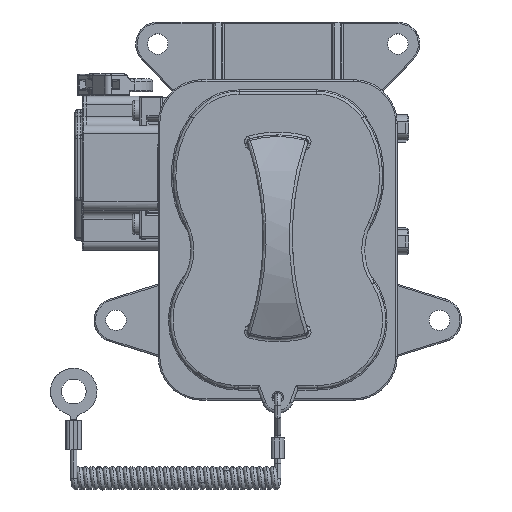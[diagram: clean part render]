
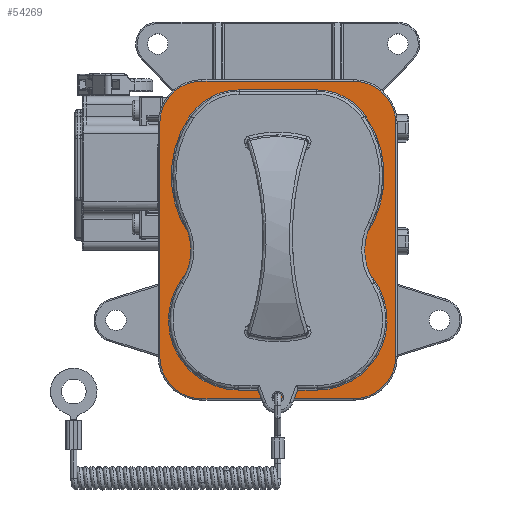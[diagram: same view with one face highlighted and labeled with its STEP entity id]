
A CAD part, top view. The second image highlights one B-rep face of the part: STEP entity #54269.
In plain terms, the highlighted planar face has unit normal (0, 0, 1).
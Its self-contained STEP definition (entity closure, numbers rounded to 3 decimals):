
#4748=CARTESIAN_POINT('',(-26.,18.,64.5));
#4749=DIRECTION('',(0.,0.,-1.));
#4750=DIRECTION('',(-1.,0.,0.));
#4751=AXIS2_PLACEMENT_3D('',#4748,#4749,#4750);
#4753=CARTESIAN_POINT('',(26.,18.,64.5));
#4754=DIRECTION('',(0.,0.,-1.));
#4755=DIRECTION('',(0.,1.,0.));
#4756=AXIS2_PLACEMENT_3D('',#4753,#4754,#4755);
#4758=CARTESIAN_POINT('',(26.,-62.,64.5));
#4759=DIRECTION('',(0.,0.,-1.));
#4760=DIRECTION('',(1.,0.,0.));
#4761=AXIS2_PLACEMENT_3D('',#4758,#4759,#4760);
#4763=CARTESIAN_POINT('',(-26.,-62.,64.5));
#4764=DIRECTION('',(0.,0.,-1.));
#4765=DIRECTION('',(0.,-1.,0.));
#4766=AXIS2_PLACEMENT_3D('',#4763,#4764,#4765);
#4768=CARTESIAN_POINT('',(-27.898,-27.253,64.5));
#4769=DIRECTION('',(0.,0.,-1.));
#4770=DIRECTION('',(0.715,0.699,0.));
#4771=AXIS2_PLACEMENT_3D('',#4768,#4769,#4770);
#4773=CARTESIAN_POINT('',(-13.5,-49.5,64.5));
#4774=DIRECTION('',(0.,0.,1.));
#4775=DIRECTION('',(-0.543,0.84,0.));
#4776=AXIS2_PLACEMENT_3D('',#4773,#4774,#4775);
#4778=CARTESIAN_POINT('',(13.5,-49.5,64.5));
#4779=DIRECTION('',(0.,0.,1.));
#4780=DIRECTION('',(0.,-1.,0.));
#4781=AXIS2_PLACEMENT_3D('',#4778,#4779,#4780);
#4783=CARTESIAN_POINT('',(27.898,-27.253,64.5));
#4784=DIRECTION('',(0.,0.,-1.));
#4785=DIRECTION('',(-0.543,-0.84,0.));
#4786=AXIS2_PLACEMENT_3D('',#4783,#4784,#4785);
#4788=CARTESIAN_POINT('',(0.,0.,64.5));
#4789=DIRECTION('',(0.,0.,1.));
#4790=DIRECTION('',(0.715,-0.699,0.));
#4791=AXIS2_PLACEMENT_3D('',#4788,#4789,#4790);
#4793=CARTESIAN_POINT('',(13.255,9.05,64.5));
#4794=DIRECTION('',(0.,0.,1.));
#4795=DIRECTION('',(0.826,0.564,0.));
#4796=AXIS2_PLACEMENT_3D('',#4793,#4794,#4795);
#4798=CARTESIAN_POINT('',(-13.255,9.05,64.5));
#4799=DIRECTION('',(0.,0.,1.));
#4800=DIRECTION('',(0.,1.,0.));
#4801=AXIS2_PLACEMENT_3D('',#4798,#4799,#4800);
#4803=CARTESIAN_POINT('',(0.,0.,64.5));
#4804=DIRECTION('',(0.,0.,1.));
#4805=DIRECTION('',(-0.826,0.564,0.));
#4806=AXIS2_PLACEMENT_3D('',#4803,#4804,#4805);
#4808=DIRECTION('',(0.,-1.,0.));
#4809=VECTOR('',#4808,80.);
#4810=CARTESIAN_POINT('',(-40.5,18.,64.5));
#4811=LINE('',#4810,#4809);
#4831=DIRECTION('',(1.,0.,0.));
#4832=VECTOR('',#4831,52.);
#4833=CARTESIAN_POINT('',(-26.,-76.5,64.5));
#4834=LINE('',#4833,#4832);
#4854=DIRECTION('',(0.,1.,0.));
#4855=VECTOR('',#4854,80.);
#4856=CARTESIAN_POINT('',(40.5,-62.,64.5));
#4857=LINE('',#4856,#4855);
#4877=DIRECTION('',(-1.,0.,0.));
#4878=VECTOR('',#4877,52.);
#4879=CARTESIAN_POINT('',(26.,32.5,64.5));
#4880=LINE('',#4879,#4878);
#5014=DIRECTION('',(1.,0.,0.));
#5015=VECTOR('',#5014,26.51);
#5016=CARTESIAN_POINT('',(-13.255,29.5,64.5));
#5017=LINE('',#5016,#5015);
#13227=DIRECTION('',(-1.,0.,0.));
#13228=VECTOR('',#13227,27.);
#13229=CARTESIAN_POINT('',(13.5,-73.5,64.5));
#13230=LINE('',#13229,#13228);
#40253=CARTESIAN_POINT('',(-40.5,18.,64.5));
#40254=CARTESIAN_POINT('',(-26.,32.5,64.5));
#40255=VERTEX_POINT('',#40253);
#40256=VERTEX_POINT('',#40254);
#40257=CARTESIAN_POINT('',(-40.5,-62.,64.5));
#40258=VERTEX_POINT('',#40257);
#40259=CARTESIAN_POINT('',(26.,32.5,64.5));
#40260=VERTEX_POINT('',#40259);
#40261=CARTESIAN_POINT('',(40.5,18.,64.5));
#40262=VERTEX_POINT('',#40261);
#40263=CARTESIAN_POINT('',(40.5,-62.,64.5));
#40264=VERTEX_POINT('',#40263);
#40265=CARTESIAN_POINT('',(26.,-76.5,64.5));
#40266=VERTEX_POINT('',#40265);
#40267=CARTESIAN_POINT('',(-26.,-76.5,64.5));
#40268=VERTEX_POINT('',#40267);
#40269=CARTESIAN_POINT('',(-26.11,-25.506,64.5));
#40270=CARTESIAN_POINT('',(-26.54,-29.351,64.5));
#40271=VERTEX_POINT('',#40269);
#40272=VERTEX_POINT('',#40270);
#40273=CARTESIAN_POINT('',(-13.5,-73.5,64.5));
#40274=VERTEX_POINT('',#40273);
#40275=CARTESIAN_POINT('',(13.5,-73.5,64.5));
#40276=VERTEX_POINT('',#40275);
#40277=CARTESIAN_POINT('',(26.54,-29.351,64.5));
#40278=VERTEX_POINT('',#40277);
#40279=CARTESIAN_POINT('',(26.11,-25.506,64.5));
#40280=VERTEX_POINT('',#40279);
#40281=CARTESIAN_POINT('',(30.144,20.581,64.5));
#40282=VERTEX_POINT('',#40281);
#40283=CARTESIAN_POINT('',(13.255,29.5,64.5));
#40284=VERTEX_POINT('',#40283);
#40285=CARTESIAN_POINT('',(-13.255,29.5,64.5));
#40286=VERTEX_POINT('',#40285);
#40287=CARTESIAN_POINT('',(-30.144,20.581,64.5));
#40288=VERTEX_POINT('',#40287);
#54225=CARTESIAN_POINT('',(0.,0.,64.5));
#54226=DIRECTION('',(0.,0.,1.));
#54227=DIRECTION('',(1.,0.,0.));
#54228=AXIS2_PLACEMENT_3D('',#54225,#54226,#54227);
#54229=PLANE('',#54228);
#54231=ORIENTED_EDGE('',*,*,#54230,.F.);
#54232=ORIENTED_EDGE('',*,*,#54215,.T.);
#54234=ORIENTED_EDGE('',*,*,#54233,.F.);
#54236=ORIENTED_EDGE('',*,*,#54235,.T.);
#54238=ORIENTED_EDGE('',*,*,#54237,.F.);
#54240=ORIENTED_EDGE('',*,*,#54239,.T.);
#54242=ORIENTED_EDGE('',*,*,#54241,.F.);
#54244=ORIENTED_EDGE('',*,*,#54243,.T.);
#54245=EDGE_LOOP('',(#54231,#54232,#54234,#54236,#54238,#54240,#54242,#54244));
#54246=FACE_OUTER_BOUND('',#54245,.F.);
#54248=ORIENTED_EDGE('',*,*,#54247,.T.);
#54250=ORIENTED_EDGE('',*,*,#54249,.T.);
#54252=ORIENTED_EDGE('',*,*,#54251,.F.);
#54254=ORIENTED_EDGE('',*,*,#54253,.T.);
#54256=ORIENTED_EDGE('',*,*,#54255,.T.);
#54258=ORIENTED_EDGE('',*,*,#54257,.T.);
#54260=ORIENTED_EDGE('',*,*,#54259,.T.);
#54262=ORIENTED_EDGE('',*,*,#54261,.F.);
#54264=ORIENTED_EDGE('',*,*,#54263,.T.);
#54266=ORIENTED_EDGE('',*,*,#54265,.T.);
#54267=EDGE_LOOP('',(#54248,#54250,#54252,#54254,#54256,#54258,#54260,#54262,
#54264,#54266));
#54268=FACE_BOUND('',#54267,.F.);
#54269=ADVANCED_FACE('',(#54246,#54268),#54229,.T.);
#4752=CIRCLE('',#4751,14.5);
#4757=CIRCLE('',#4756,14.5);
#4762=CIRCLE('',#4761,14.5);
#4767=CIRCLE('',#4766,14.5);
#4772=CIRCLE('',#4771,2.5);
#4777=CIRCLE('',#4776,24.);
#4782=CIRCLE('',#4781,24.);
#4787=CIRCLE('',#4786,2.5);
#4792=CIRCLE('',#4791,36.5);
#4797=CIRCLE('',#4796,20.45);
#4802=CIRCLE('',#4801,20.45);
#4807=CIRCLE('',#4806,36.5);
#54215=EDGE_CURVE('',#40255,#40256,#4752,.T.);
#54230=EDGE_CURVE('',#40255,#40258,#4811,.T.);
#54233=EDGE_CURVE('',#40260,#40256,#4880,.T.);
#54235=EDGE_CURVE('',#40260,#40262,#4757,.T.);
#54237=EDGE_CURVE('',#40264,#40262,#4857,.T.);
#54239=EDGE_CURVE('',#40264,#40266,#4762,.T.);
#54241=EDGE_CURVE('',#40268,#40266,#4834,.T.);
#54243=EDGE_CURVE('',#40268,#40258,#4767,.T.);
#54247=EDGE_CURVE('',#40271,#40272,#4772,.T.);
#54249=EDGE_CURVE('',#40272,#40274,#4777,.T.);
#54251=EDGE_CURVE('',#40276,#40274,#13230,.T.);
#54253=EDGE_CURVE('',#40276,#40278,#4782,.T.);
#54255=EDGE_CURVE('',#40278,#40280,#4787,.T.);
#54257=EDGE_CURVE('',#40280,#40282,#4792,.T.);
#54259=EDGE_CURVE('',#40282,#40284,#4797,.T.);
#54261=EDGE_CURVE('',#40286,#40284,#5017,.T.);
#54263=EDGE_CURVE('',#40286,#40288,#4802,.T.);
#54265=EDGE_CURVE('',#40288,#40271,#4807,.T.);
